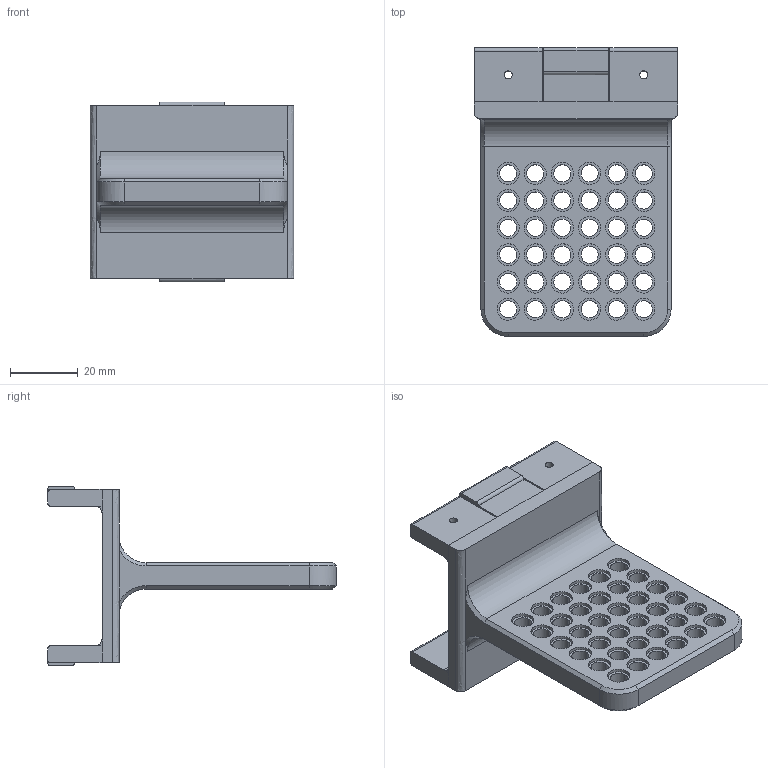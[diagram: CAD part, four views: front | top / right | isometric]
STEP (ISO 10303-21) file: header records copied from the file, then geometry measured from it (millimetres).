
FILE_DESCRIPTION(/* description */ (''),/* implementation_level */ '2;1');
FILE_NAME(/* name */ 'LEGOAD~2',/* time_stamp */ '2016-10-08T02:49:23-04:00',/* author */ (''),/* organization */ (''),/* preprocessor_version */ 'ST-DEVELOPER v15',/* originating_system */ '',/* authorisation */ '');
FILE_SCHEMA (('AUTOMOTIVE_DESIGN'));
Length unit declared in the file: millimetre
Products named in the file (1): Document
Bounding box: 60 x 85 x 53 mm (x, y, z)
Volume: 45709.6 mm3; surface area: 22523.3 mm2
Topology: 1 solids, 1 shells, 400 faces, 926 edges, 600 vertices
Faces by surface type: bspline 261, plane 139
Entity records: 12186 total; most frequent: CARTESIAN_POINT 6659, ORIENTED_EDGE 1852, EDGE_CURVE 926, VERTEX_POINT 600, EDGE_LOOP 552, ADVANCED_FACE 400, FACE_OUTER_BOUND 400, B_SPLINE_CURVE_WITH_KNOTS 186
